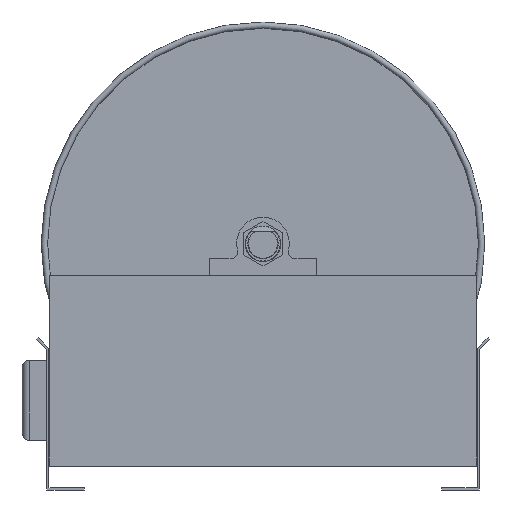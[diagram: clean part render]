
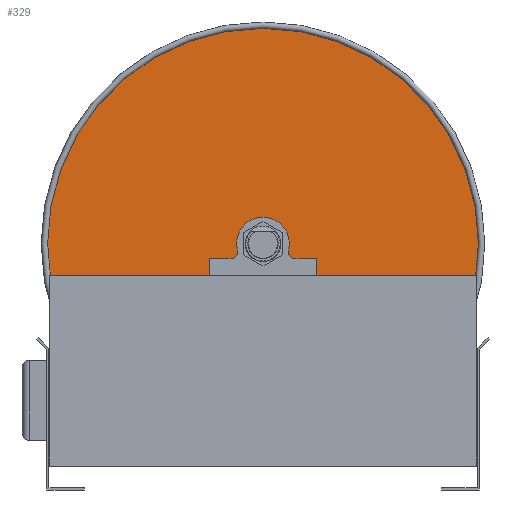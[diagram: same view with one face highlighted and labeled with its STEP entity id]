
A CAD part, front view. The second image highlights one B-rep face of the part: STEP entity #329.
In plain terms, the highlighted planar face has unit normal (0, -1, 0).
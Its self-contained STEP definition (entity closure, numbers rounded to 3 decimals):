
#329 = ADVANCED_FACE( '', ( #744, #745 ), #746, .F. );
#744 = FACE_OUTER_BOUND( '', #1958, .T. );
#745 = FACE_BOUND( '', #1959, .T. );
#746 = PLANE( '', #1960 );
#1958 = EDGE_LOOP( '', ( #3471 ) );
#1959 = EDGE_LOOP( '', ( #3472 ) );
#1960 = AXIS2_PLACEMENT_3D( '', #3473, #3474, #3475 );
#3471 = ORIENTED_EDGE( '', *, *, #4307, .T. );
#3472 = ORIENTED_EDGE( '', *, *, #4353, .F. );
#3473 = CARTESIAN_POINT( '', ( 306.324, -101.496, 349.387 ) );
#3474 = DIRECTION( '', ( 0., 1., 0. ) );
#3475 = DIRECTION( '', ( 0., 0., 1. ) );
#4307 = EDGE_CURVE( '', #4898, #4898, #4899, .T. );
#4353 = EDGE_CURVE( '', #4962, #4962, #4963, .F. );
#4898 = VERTEX_POINT( '', #5995 );
#4899 = CIRCLE( '', #5996, 312.928 );
#4962 = VERTEX_POINT( '', #6078 );
#4963 = CIRCLE( '', #6079, 16.256 );
#5995 = CARTESIAN_POINT( '', ( 306.324, -101.496, 36.459 ) );
#5996 = AXIS2_PLACEMENT_3D( '', #6735, #6736, #6737 );
#6078 = CARTESIAN_POINT( '', ( 306.324, -101.496, 365.643 ) );
#6079 = AXIS2_PLACEMENT_3D( '', #6790, #6791, #6792 );
#6735 = CARTESIAN_POINT( '', ( 306.324, -101.496, 349.387 ) );
#6736 = DIRECTION( '', ( 0., -1., 0. ) );
#6737 = DIRECTION( '', ( 0., 0., -1. ) );
#6790 = CARTESIAN_POINT( '', ( 306.324, -101.496, 349.387 ) );
#6791 = DIRECTION( '', ( 0., 1., 0. ) );
#6792 = DIRECTION( '', ( 0., 0., 1. ) );
